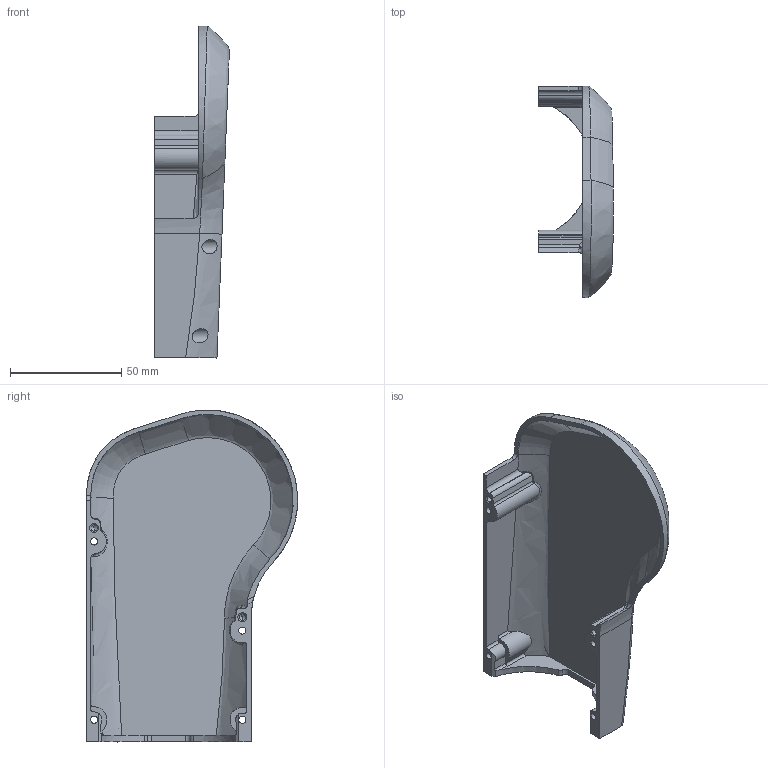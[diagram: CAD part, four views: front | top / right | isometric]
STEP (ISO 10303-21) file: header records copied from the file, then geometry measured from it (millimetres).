
FILE_DESCRIPTION((''),'2;1');
FILE_NAME('KC-C-402L_FOREARM_UPPER_IDLE_1','2025-07-12T13:31:11',('Administrator'),(''),'CREO PARAMETRIC BY PTC INC, 2022073','CREO PARAMETRIC BY PTC INC, 2022073','');
FILE_SCHEMA(('CONFIG_CONTROL_DESIGN'));
Length unit declared in the file: millimetre
Products named in the file (1): KC-C-402L_FOREARM_UPPER_IDLE_1
Bounding box: 33.58 x 94.85 x 149 mm (x, y, z)
Volume: 42423.5 mm3; surface area: 36509.1 mm2
Topology: 1 solids, 1 shells, 134 faces, 382 edges, 247 vertices
Faces by surface type: cylinder 56, plane 31, bspline 23, cone 16, extrusion 6, sphere 1, torus 1
Entity records: 7516 total; most frequent: CARTESIAN_POINT 4242, ORIENTED_EDGE 748, DIRECTION 572, EDGE_CURVE 374, VERTEX_POINT 247, AXIS2_PLACEMENT_3D 217, EDGE_LOOP 147, VECTOR 138
